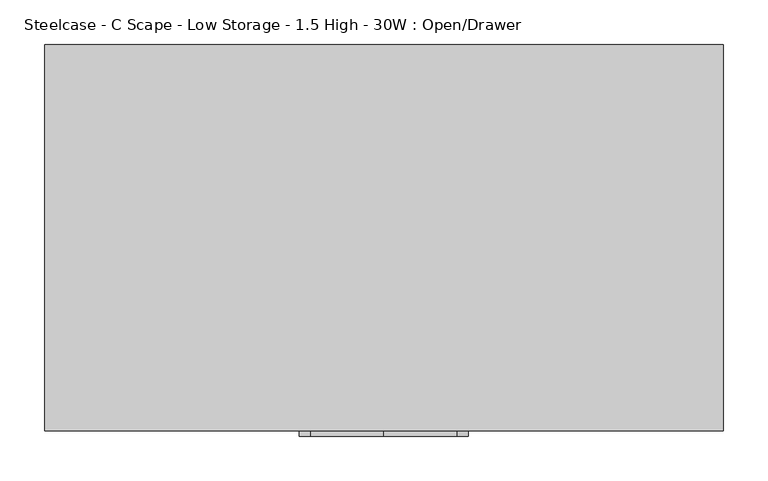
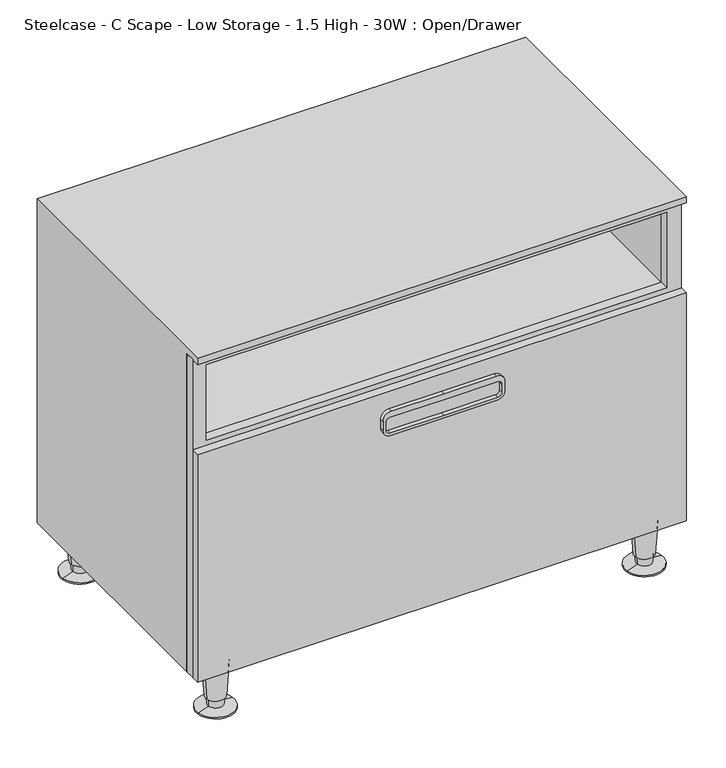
"""IFC4 building model written with IfcOpenShell, lengths in millimetres: furniture geometry, Steelcase - C Scape - Low Storage - 1.5 High - 30W : Open/Drawer."""

from ifc_helpers import new_model, si_unit, point, frame, frame_2d, origin, place, context, project, spatial, polyline, circle_curve, trimmed, segment, composite_curve, outline, extrude, faceted_brep, source, transform, mapped, element, save
from ifc_brep_helpers import plane_surface, cylinder_surface, revolved_surface, advanced_brep


def steelcase_c_scape_low_storage_1_5_high_30w_open_drawer_08e4352a(model_context):
    return source(origin(), model_context, "Body", "SolidModel", [
        extrude(outline(polyline([(599.4499291, 0.0), (76.2, 0.0), (76.2, 760.73), (599.4499291, 760.73), (599.4499291, 320.0585382), (599.4499291, 0.0)]), holes=[polyline([(458.7875121, 21.3382324), (582.9399291, 21.3382324), (582.9399291, 738.7617285), (458.7875121, 738.7617285), (458.7875121, 21.3382324)]), polyline([(436.841904, 21.3256814), (436.841904, 738.7617285), (92.7100024, 738.7617285), (92.7100024, 21.3256814), (436.841904, 21.3256814)])]), frame((0.0, -419.3540543, 0.0), z_axis=(0.0, 1.0, 0.0), x_axis=(0.0, 0.0, 1.0)), (0.0, 0.0, 1.0), 14.9860039),
        extrude(outline(composite_curve([segment(trimmed(circle_curve(frame_2d((409.5749879, 297.8147442)), 12.7), [point((422.2749879, 297.8147442))], [point((409.5749879, 285.1147442))], False, "CARTESIAN"), True, "CONTINUOUS"), segment(polyline([(409.5749879, 285.1147442), (394.970017, 285.1147442)]), True, "CONTINUOUS"), segment(trimmed(circle_curve(frame_2d((394.970017, 297.8147442)), 12.7), [point((394.970017, 285.1147442))], [point((382.270017, 297.8147442))], False, "CARTESIAN"), True, "CONTINUOUS"), segment(polyline([(382.270017, 297.8147442), (382.270017, 380.0475), (382.270017, 462.2802558)]), True, "CONTINUOUS"), segment(trimmed(circle_curve(frame_2d((394.970017, 462.2802558)), 12.7), [point((382.270017, 462.2802558))], [point((394.970017, 474.9802558))], False, "CARTESIAN"), True, "CONTINUOUS"), segment(polyline([(394.970017, 474.9802558), (409.5749879, 474.9802558)]), True, "CONTINUOUS"), segment(trimmed(circle_curve(frame_2d((409.5749879, 462.2802558)), 12.7), [point((409.5749879, 474.9802558))], [point((422.2749879, 462.2802558))], False, "CARTESIAN"), True, "CONTINUOUS"), segment(polyline([(422.2749879, 462.2802558), (422.2749879, 380.0475), (422.2749879, 297.8147442)]), True, "CONTINUOUS")], self_intersect=False), holes=[composite_curve([segment(trimmed(circle_curve(frame_2d((406.1460063, 296.2923565)), 6.35), [point((406.1460063, 289.9423565))], [point((412.4960063, 296.2923565))], True, "CARTESIAN"), True, "CONTINUOUS"), segment(polyline([(412.4960063, 296.2923565), (412.4960063, 380.0475), (412.4960063, 463.8026435)]), True, "CONTINUOUS"), segment(trimmed(circle_curve(frame_2d((406.1460063, 463.8026435)), 6.35), [point((412.4960063, 463.8026435))], [point((406.1460063, 470.1526435))], True, "CARTESIAN"), True, "CONTINUOUS"), segment(polyline([(406.1460063, 470.1526435), (393.4459942, 470.1526435)]), True, "CONTINUOUS"), segment(trimmed(circle_curve(frame_2d((393.4459942, 463.8026435)), 6.35), [point((393.4459942, 470.1526435))], [point((387.0959942, 463.8026435))], True, "CARTESIAN"), True, "CONTINUOUS"), segment(polyline([(387.0959942, 463.8026435), (387.0959942, 380.0475), (387.0959942, 296.2923565)]), True, "CONTINUOUS"), segment(trimmed(circle_curve(frame_2d((393.4459942, 296.2923565)), 6.35), [point((387.0959942, 296.2923565))], [point((393.4459942, 289.9423565))], True, "CARTESIAN"), True, "CONTINUOUS"), segment(polyline([(393.4459942, 289.9423565), (406.1460063, 289.9423565)]), True, "CONTINUOUS")], self_intersect=False)]), frame((0.0, -439.42, 0.0), z_axis=(0.0, 1.0, 0.0), x_axis=(0.0, 0.0, 1.0)), (0.0, 0.0, 1.0), 6.35),
        advanced_brep(
        [(65.5422821, -397.1702762, 76.2), (27.8805432, -402.9325174, 76.2), (46.7114126, -400.0513968, 76.2), (61.5919341, -397.774679, 19.05), (31.8308912, -402.3281146, 19.05), (59.1623471, -398.1464055, 19.05), (34.2604781, -401.9563882, 19.05), (58.4735776, -398.2517871, 5.7545598), (34.9492476, -401.8510065, 5.7545598), (75.8224611, -395.5974102, 2.5119506), (17.6003641, -404.5053834, 2.5119506), (75.8224611, -395.5974102, 0.0), (17.6003641, -404.5053834, 0.0), (46.7114126, -400.0513968, 0.0)],
        [
            (0, 1, circle_curve(frame((46.7114126, -400.0513968, 76.2), z_axis=(0.0, 0.0, 1.0), x_axis=(0.0, -1.0, 0.0)), 19.05)),
            (1, 2),
            (2, 0),
            (1, 0, circle_curve(frame((46.7114126, -400.0513968, 76.2), z_axis=(0.0, 0.0, 1.0), x_axis=(0.0, -1.0, 0.0)), 19.05)),
            (3, 4, circle_curve(frame((46.7114126, -400.0513968, 19.05), z_axis=(0.0, 0.0, 1.0), x_axis=(0.0, -1.0, 0.0)), 15.0536827)),
            (4, 1),
            (0, 3),
            (4, 3, circle_curve(frame((46.7114126, -400.0513968, 19.05), z_axis=(0.0, 0.0, 1.0), x_axis=(0.0, -1.0, 0.0)), 15.0536827)),
            (5, 6, circle_curve(frame((46.7114126, -400.0513968, 19.05), z_axis=(0.0, 0.0, 1.0), x_axis=(0.0, -1.0, 0.0)), 12.5958232)),
            (6, 4),
            (3, 5),
            (6, 5, circle_curve(frame((46.7114126, -400.0513968, 19.05), z_axis=(0.0, 0.0, 1.0), x_axis=(0.0, -1.0, 0.0)), 12.5958232)),
            (7, 8, circle_curve(frame((46.7114126, -400.0513968, 5.7545598), z_axis=(0.0, 0.0, 1.0), x_axis=(0.0, -1.0, 0.0)), 11.8990387)),
            (8, 6),
            (5, 7),
            (8, 7, circle_curve(frame((46.7114126, -400.0513968, 5.7545598), z_axis=(0.0, 0.0, 1.0), x_axis=(0.0, -1.0, 0.0)), 11.8990387)),
            (9, 10, circle_curve(frame((46.7114126, -400.0513968, 2.5119506), z_axis=(0.0, 0.0, 1.0), x_axis=(0.0, -1.0, 0.0)), 29.4498071)),
            (10, 8),
            (7, 9),
            (10, 9, circle_curve(frame((46.7114126, -400.0513968, 2.5119506), z_axis=(0.0, 0.0, 1.0), x_axis=(0.0, -1.0, 0.0)), 29.4498071)),
            (11, 12, circle_curve(frame((46.7114126, -400.0513968, 0.0), z_axis=(0.0, 0.0, 1.0), x_axis=(0.0, -1.0, 0.0)), 29.4498071)),
            (12, 10),
            (9, 11),
            (12, 11, circle_curve(frame((46.7114126, -400.0513968, 0.0), z_axis=(0.0, 0.0, 1.0), x_axis=(0.0, -1.0, 0.0)), 29.4498071)),
            (13, 12),
            (11, 13),
        ],
        [
            plane_surface(frame((46.7114126, -400.0513968, 76.2), z_axis=(0.0, 0.0, 1.0), x_axis=(0.0, -1.0, 0.0))),
            revolved_surface(polyline([(46.7114126, -419.1013968, 76.2), (46.7114126, -415.1050795, 19.05)]), (46.7114126, -400.0513968, 25.4), (0.0, 0.0, -1.0)),
            plane_surface(frame((46.7114126, -400.0513968, 19.05), z_axis=(0.0, 0.0, -1.0), x_axis=(0.0, -1.0, 0.0))),
            revolved_surface(polyline([(46.7114126, -412.64722, 19.05), (46.7114126, -411.9504355, 5.7545598)]), (46.7114126, -400.0513968, 25.4), (0.0, 0.0, -1.0)),
            revolved_surface(polyline([(46.7114126, -411.9504355, 5.7545598), (46.7114126, -429.5012039, 2.5119506)]), (46.7114126, -400.0513968, 25.4), (0.0, 0.0, -1.0)),
            cylinder_surface(frame((46.7114126, -400.0513968, 25.4), z_axis=(0.0, 0.0, -1.0), x_axis=(0.0, -1.0, 0.0)), 29.4498071),
            plane_surface(frame((46.7114126, -400.0513968, 0.0), z_axis=(0.0, 0.0, -1.0), x_axis=(0.0, -1.0, 0.0))),
        ],
        [
            (0, [[1, 2, 3]]),
            (0, [[4, -3, -2]]),
            (1, [[5, 6, -1, 7]]),
            (1, [[8, -7, -4, -6]]),
            (2, [[9, 10, -5, 11]]),
            (2, [[12, -11, -8, -10]]),
            (3, [[13, 14, -9, 15]]),
            (3, [[16, -15, -12, -14]]),
            (4, [[17, 18, -13, 19]]),
            (4, [[20, -19, -16, -18]]),
            (5, [[21, 22, -17, 23]]),
            (5, [[24, -23, -20, -22]]),
            (6, [[25, -21, 26]]),
            (6, [[-26, -24, -25]]),
        ],
    ),
        advanced_brep(
        [(733.4598695, -397.1702762, 76.2), (695.7981305, -402.9325174, 76.2), (714.629, -400.0513968, 76.2), (729.5095214, -397.774679, 19.05), (699.7484786, -402.3281146, 19.05), (727.0799345, -398.1464055, 19.05), (702.1780655, -401.9563882, 19.05), (726.391165, -398.2517871, 5.7545598), (702.866835, -401.8510065, 5.7545598), (743.7400485, -395.5974102, 2.5119506), (685.5179515, -404.5053834, 2.5119506), (743.7400485, -395.5974102, 0.0), (685.5179515, -404.5053834, 0.0), (714.629, -400.0513968, 0.0)],
        [
            (0, 1, circle_curve(frame((714.629, -400.0513968, 76.2), z_axis=(0.0, 0.0, 1.0), x_axis=(0.0, -1.0, 0.0)), 19.05)),
            (1, 2),
            (2, 0),
            (1, 0, circle_curve(frame((714.629, -400.0513968, 76.2), z_axis=(0.0, 0.0, 1.0), x_axis=(0.0, -1.0, 0.0)), 19.05)),
            (3, 4, circle_curve(frame((714.629, -400.0513968, 19.05), z_axis=(0.0, 0.0, 1.0), x_axis=(0.0, -1.0, 0.0)), 15.0536827)),
            (4, 1),
            (0, 3),
            (4, 3, circle_curve(frame((714.629, -400.0513968, 19.05), z_axis=(0.0, 0.0, 1.0), x_axis=(0.0, -1.0, 0.0)), 15.0536827)),
            (5, 6, circle_curve(frame((714.629, -400.0513968, 19.05), z_axis=(0.0, 0.0, 1.0), x_axis=(0.0, -1.0, 0.0)), 12.5958232)),
            (6, 4),
            (3, 5),
            (6, 5, circle_curve(frame((714.629, -400.0513968, 19.05), z_axis=(0.0, 0.0, 1.0), x_axis=(0.0, -1.0, 0.0)), 12.5958232)),
            (7, 8, circle_curve(frame((714.629, -400.0513968, 5.7545598), z_axis=(0.0, 0.0, 1.0), x_axis=(0.0, -1.0, 0.0)), 11.8990387)),
            (8, 6),
            (5, 7),
            (8, 7, circle_curve(frame((714.629, -400.0513968, 5.7545598), z_axis=(0.0, 0.0, 1.0), x_axis=(0.0, -1.0, 0.0)), 11.8990387)),
            (9, 10, circle_curve(frame((714.629, -400.0513968, 2.5119506), z_axis=(0.0, 0.0, 1.0), x_axis=(0.0, -1.0, 0.0)), 29.4498071)),
            (10, 8),
            (7, 9),
            (10, 9, circle_curve(frame((714.629, -400.0513968, 2.5119506), z_axis=(0.0, 0.0, 1.0), x_axis=(0.0, -1.0, 0.0)), 29.4498071)),
            (11, 12, circle_curve(frame((714.629, -400.0513968, 0.0), z_axis=(0.0, 0.0, 1.0), x_axis=(0.0, -1.0, 0.0)), 29.4498071)),
            (12, 10),
            (9, 11),
            (12, 11, circle_curve(frame((714.629, -400.0513968, 0.0), z_axis=(0.0, 0.0, 1.0), x_axis=(0.0, -1.0, 0.0)), 29.4498071)),
            (13, 12),
            (11, 13),
        ],
        [
            plane_surface(frame((714.629, -400.0513968, 76.2), z_axis=(0.0, 0.0, 1.0), x_axis=(0.0, -1.0, 0.0))),
            revolved_surface(polyline([(714.629, -419.1013968, 76.2), (714.629, -415.1050795, 19.05)]), (714.629, -400.0513968, 25.4), (0.0, 0.0, -1.0)),
            plane_surface(frame((714.629, -400.0513968, 19.05), z_axis=(0.0, 0.0, -1.0), x_axis=(0.0, -1.0, 0.0))),
            revolved_surface(polyline([(714.629, -412.64722, 19.05), (714.629, -411.9504355, 5.7545598)]), (714.629, -400.0513968, 25.4), (0.0, 0.0, -1.0)),
            revolved_surface(polyline([(714.629, -411.9504355, 5.7545598), (714.629, -429.5012039, 2.5119506)]), (714.629, -400.0513968, 25.4), (0.0, 0.0, -1.0)),
            cylinder_surface(frame((714.629, -400.0513968, 25.4), z_axis=(0.0, 0.0, -1.0), x_axis=(0.0, -1.0, 0.0)), 29.4498071),
            plane_surface(frame((714.629, -400.0513968, 0.0), z_axis=(0.0, 0.0, -1.0), x_axis=(0.0, -1.0, 0.0))),
        ],
        [
            (0, [[1, 2, 3]]),
            (0, [[4, -3, -2]]),
            (1, [[5, 6, -1, 7]]),
            (1, [[8, -7, -4, -6]]),
            (2, [[9, 10, -5, 11]]),
            (2, [[12, -11, -8, -10]]),
            (3, [[13, 14, -9, 15]]),
            (3, [[16, -15, -12, -14]]),
            (4, [[17, 18, -13, 19]]),
            (4, [[20, -19, -16, -18]]),
            (5, [[21, 22, -17, 23]]),
            (5, [[24, -23, -20, -22]]),
            (6, [[25, -21, 26]]),
            (6, [[-26, -24, -25]]),
        ],
    ),
        advanced_brep(
        [(733.4598695, -31.5218435, 76.2), (695.7981305, -37.2840847, 76.2), (714.629, -34.4029641, 76.2), (729.5095214, -32.1262463, 19.05), (699.7484786, -36.6796819, 19.05), (727.0799345, -32.4979728, 19.05), (702.1780655, -36.3079555, 19.05), (726.391165, -32.6033544, 5.7545598), (702.866835, -36.2025738, 5.7545598), (743.7400485, -29.9489775, 2.5119506), (685.5179515, -38.8569507, 2.5119506), (743.7400485, -29.9489775, 0.0), (685.5179515, -38.8569507, 0.0), (714.629, -34.4029641, 0.0)],
        [
            (0, 1, circle_curve(frame((714.629, -34.4029641, 76.2), z_axis=(0.0, 0.0, 1.0), x_axis=(0.0, -1.0, 0.0)), 19.05)),
            (1, 2),
            (2, 0),
            (1, 0, circle_curve(frame((714.629, -34.4029641, 76.2), z_axis=(0.0, 0.0, 1.0), x_axis=(0.0, -1.0, 0.0)), 19.05)),
            (3, 4, circle_curve(frame((714.629, -34.4029641, 19.05), z_axis=(0.0, 0.0, 1.0), x_axis=(0.0, -1.0, 0.0)), 15.0536827)),
            (4, 1),
            (0, 3),
            (4, 3, circle_curve(frame((714.629, -34.4029641, 19.05), z_axis=(0.0, 0.0, 1.0), x_axis=(0.0, -1.0, 0.0)), 15.0536827)),
            (5, 6, circle_curve(frame((714.629, -34.4029641, 19.05), z_axis=(0.0, 0.0, 1.0), x_axis=(0.0, -1.0, 0.0)), 12.5958232)),
            (6, 4),
            (3, 5),
            (6, 5, circle_curve(frame((714.629, -34.4029641, 19.05), z_axis=(0.0, 0.0, 1.0), x_axis=(0.0, -1.0, 0.0)), 12.5958232)),
            (7, 8, circle_curve(frame((714.629, -34.4029641, 5.7545598), z_axis=(0.0, 0.0, 1.0), x_axis=(0.0, -1.0, 0.0)), 11.8990387)),
            (8, 6),
            (5, 7),
            (8, 7, circle_curve(frame((714.629, -34.4029641, 5.7545598), z_axis=(0.0, 0.0, 1.0), x_axis=(0.0, -1.0, 0.0)), 11.8990387)),
            (9, 10, circle_curve(frame((714.629, -34.4029641, 2.5119506), z_axis=(0.0, 0.0, 1.0), x_axis=(0.0, -1.0, 0.0)), 29.4498071)),
            (10, 8),
            (7, 9),
            (10, 9, circle_curve(frame((714.629, -34.4029641, 2.5119506), z_axis=(0.0, 0.0, 1.0), x_axis=(0.0, -1.0, 0.0)), 29.4498071)),
            (11, 12, circle_curve(frame((714.629, -34.4029641, 0.0), z_axis=(0.0, 0.0, 1.0), x_axis=(0.0, -1.0, 0.0)), 29.4498071)),
            (12, 10),
            (9, 11),
            (12, 11, circle_curve(frame((714.629, -34.4029641, 0.0), z_axis=(0.0, 0.0, 1.0), x_axis=(0.0, -1.0, 0.0)), 29.4498071)),
            (13, 12),
            (11, 13),
        ],
        [
            plane_surface(frame((714.629, -34.4029641, 76.2), z_axis=(0.0, 0.0, 1.0), x_axis=(0.0, -1.0, 0.0))),
            revolved_surface(polyline([(714.629, -53.4529641, 76.2), (714.629, -49.4566468, 19.05)]), (714.629, -34.4029641, 25.4), (0.0, 0.0, -1.0)),
            plane_surface(frame((714.629, -34.4029641, 19.05), z_axis=(0.0, 0.0, -1.0), x_axis=(0.0, -1.0, 0.0))),
            revolved_surface(polyline([(714.629, -46.9987873, 19.05), (714.629, -46.3020028, 5.7545598)]), (714.629, -34.4029641, 25.4), (0.0, 0.0, -1.0)),
            revolved_surface(polyline([(714.629, -46.3020028, 5.7545598), (714.629, -63.8527712, 2.5119506)]), (714.629, -34.4029641, 25.4), (0.0, 0.0, -1.0)),
            cylinder_surface(frame((714.629, -34.4029641, 25.4), z_axis=(0.0, 0.0, -1.0), x_axis=(0.0, -1.0, 0.0)), 29.4498071),
            plane_surface(frame((714.629, -34.4029641, 0.0), z_axis=(0.0, 0.0, -1.0), x_axis=(0.0, -1.0, 0.0))),
        ],
        [
            (0, [[1, 2, 3]]),
            (0, [[4, -3, -2]]),
            (1, [[5, 6, -1, 7]]),
            (1, [[8, -7, -4, -6]]),
            (2, [[9, 10, -5, 11]]),
            (2, [[12, -11, -8, -10]]),
            (3, [[13, 14, -9, 15]]),
            (3, [[16, -15, -12, -14]]),
            (4, [[17, 18, -13, 19]]),
            (4, [[20, -19, -16, -18]]),
            (5, [[21, 22, -17, 23]]),
            (5, [[24, -23, -20, -22]]),
            (6, [[25, -21, 26]]),
            (6, [[-26, -24, -25]]),
        ],
    ),
        advanced_brep(
        [(65.5422821, -31.5218435, 76.2), (27.8805432, -37.2840847, 76.2), (46.7114126, -34.4029641, 76.2), (61.5919341, -32.1262463, 19.05), (31.8308912, -36.6796819, 19.05), (59.1623471, -32.4979728, 19.05), (34.2604781, -36.3079555, 19.05), (58.4735776, -32.6033544, 5.7545598), (34.9492476, -36.2025738, 5.7545598), (75.8224611, -29.9489775, 2.5119506), (17.6003641, -38.8569507, 2.5119506), (75.8224611, -29.9489775, 0.0), (17.6003641, -38.8569507, 0.0), (46.7114126, -34.4029641, 0.0)],
        [
            (0, 1, circle_curve(frame((46.7114126, -34.4029641, 76.2), z_axis=(0.0, 0.0, 1.0), x_axis=(0.0, -1.0, 0.0)), 19.05)),
            (1, 2),
            (2, 0),
            (1, 0, circle_curve(frame((46.7114126, -34.4029641, 76.2), z_axis=(0.0, 0.0, 1.0), x_axis=(0.0, -1.0, 0.0)), 19.05)),
            (3, 4, circle_curve(frame((46.7114126, -34.4029641, 19.05), z_axis=(0.0, 0.0, 1.0), x_axis=(0.0, -1.0, 0.0)), 15.0536827)),
            (4, 1),
            (0, 3),
            (4, 3, circle_curve(frame((46.7114126, -34.4029641, 19.05), z_axis=(0.0, 0.0, 1.0), x_axis=(0.0, -1.0, 0.0)), 15.0536827)),
            (5, 6, circle_curve(frame((46.7114126, -34.4029641, 19.05), z_axis=(0.0, 0.0, 1.0), x_axis=(0.0, -1.0, 0.0)), 12.5958232)),
            (6, 4),
            (3, 5),
            (6, 5, circle_curve(frame((46.7114126, -34.4029641, 19.05), z_axis=(0.0, 0.0, 1.0), x_axis=(0.0, -1.0, 0.0)), 12.5958232)),
            (7, 8, circle_curve(frame((46.7114126, -34.4029641, 5.7545598), z_axis=(0.0, 0.0, 1.0), x_axis=(0.0, -1.0, 0.0)), 11.8990387)),
            (8, 6),
            (5, 7),
            (8, 7, circle_curve(frame((46.7114126, -34.4029641, 5.7545598), z_axis=(0.0, 0.0, 1.0), x_axis=(0.0, -1.0, 0.0)), 11.8990387)),
            (9, 10, circle_curve(frame((46.7114126, -34.4029641, 2.5119506), z_axis=(0.0, 0.0, 1.0), x_axis=(0.0, -1.0, 0.0)), 29.4498071)),
            (10, 8),
            (7, 9),
            (10, 9, circle_curve(frame((46.7114126, -34.4029641, 2.5119506), z_axis=(0.0, 0.0, 1.0), x_axis=(0.0, -1.0, 0.0)), 29.4498071)),
            (11, 12, circle_curve(frame((46.7114126, -34.4029641, 0.0), z_axis=(0.0, 0.0, 1.0), x_axis=(0.0, -1.0, 0.0)), 29.4498071)),
            (12, 10),
            (9, 11),
            (12, 11, circle_curve(frame((46.7114126, -34.4029641, 0.0), z_axis=(0.0, 0.0, 1.0), x_axis=(0.0, -1.0, 0.0)), 29.4498071)),
            (13, 12),
            (11, 13),
        ],
        [
            plane_surface(frame((46.7114126, -34.4029641, 76.2), z_axis=(0.0, 0.0, 1.0), x_axis=(0.0, -1.0, 0.0))),
            revolved_surface(polyline([(46.7114126, -53.4529641, 76.2), (46.7114126, -49.4566468, 19.05)]), (46.7114126, -34.4029641, 25.4), (0.0, 0.0, -1.0)),
            plane_surface(frame((46.7114126, -34.4029641, 19.05), z_axis=(0.0, 0.0, -1.0), x_axis=(0.0, -1.0, 0.0))),
            revolved_surface(polyline([(46.7114126, -46.9987873, 19.05), (46.7114126, -46.3020028, 5.7545598)]), (46.7114126, -34.4029641, 25.4), (0.0, 0.0, -1.0)),
            revolved_surface(polyline([(46.7114126, -46.3020028, 5.7545598), (46.7114126, -63.8527712, 2.5119506)]), (46.7114126, -34.4029641, 25.4), (0.0, 0.0, -1.0)),
            cylinder_surface(frame((46.7114126, -34.4029641, 25.4), z_axis=(0.0, 0.0, -1.0), x_axis=(0.0, -1.0, 0.0)), 29.4498071),
            plane_surface(frame((46.7114126, -34.4029641, 0.0), z_axis=(0.0, 0.0, -1.0), x_axis=(0.0, -1.0, 0.0))),
        ],
        [
            (0, [[1, 2, 3]]),
            (0, [[4, -3, -2]]),
            (1, [[5, 6, -1, 7]]),
            (1, [[8, -7, -4, -6]]),
            (2, [[9, 10, -5, 11]]),
            (2, [[12, -11, -8, -10]]),
            (3, [[13, 14, -9, 15]]),
            (3, [[16, -15, -12, -14]]),
            (4, [[17, 18, -13, 19]]),
            (4, [[20, -19, -16, -18]]),
            (5, [[21, 22, -17, 23]]),
            (5, [[24, -23, -20, -22]]),
            (6, [[25, -21, 26]]),
            (6, [[-26, -24, -25]]),
        ],
    ),
        faceted_brep([(0.0, 0.0, 609.6), (760.73, 0.0, 609.6), (760.73, 0.0, 76.2), (0.0, 0.0, 76.2), (0.0, -433.07, 609.6), (0.0, -404.3680504, 76.2), (0.0, -404.3680504, 599.4499291), (0.0, -433.07, 599.4499291), (21.3382324, -404.3680504, 599.4499291), (760.73, -404.3680504, 76.2), (760.73, -404.3680504, 599.4499291), (738.7617285, -404.3680504, 599.4499291), (738.7617285, -404.3680504, 458.7875121), (21.3382324, -404.3680504, 458.7875121), (738.7617285, -404.3680504, 450.8499879), (738.7617285, -404.3680504, 92.7100024), (21.3382324, -404.3680504, 92.7100024), (21.3382324, -404.3680504, 450.8499879), (21.3382324, -9.525, 599.4499291), (21.3382324, -9.525, 458.7875121), (21.3382324, -9.525, 92.7100024), (21.3382324, -9.525, 450.8499879), (738.7617285, -9.525, 599.4499291), (738.7617285, -9.525, 458.7875121), (738.7617285, -9.525, 92.7100024), (738.7617285, -9.525, 450.8499879), (760.73, -433.07, 609.6), (760.73, -433.07, 599.4499291)], [[[0, 1, 2, 3]], [[4, 0, 3, 5, 6, 7]], [[8, 6, 5, 9, 10, 11, 12, 13], [14, 15, 16, 17]], [[18, 8, 13, 19]], [[17, 16, 20, 21]], [[22, 18, 19, 23]], [[21, 20, 24, 25]], [[11, 22, 23, 12]], [[25, 24, 15, 14]], [[2, 1, 26, 27, 10, 9]], [[1, 0, 4, 26]], [[27, 7, 6, 8, 18, 22, 11, 10]], [[26, 4, 7, 27]], [[13, 12, 23, 19]], [[14, 17, 21, 25]], [[16, 15, 24, 20]], [[2, 9, 5, 3]]]),
        extrude(outline(polyline([(760.73, -419.3540543), (760.73, -433.07), (0.0, -433.07), (0.0, -419.3540543), (760.73, -419.3540543)])), frame((0.0, 0.0, 76.2), z_axis=(0.0, 0.0, 1.0), x_axis=(1.0, 0.0, 0.0)), (0.0, 0.0, 1.0), 374.6499879),
    ])


if __name__ == "__main__":
    model = new_model("IFC4")
    model_context = context("Model", 3, world=origin())
    ifc_project = project(units=[si_unit("LENGTHUNIT", "METRE", prefix="MILLI")], contexts=[model_context])
    site = spatial("IfcSite", under=ifc_project)
    building = spatial("IfcBuilding", under=site)
    placement = place(None, origin())
    steelcase_c_scape_low_storage_1_5_high_30w_open_drawer_shape = steelcase_c_scape_low_storage_1_5_high_30w_open_drawer_08e4352a(model_context)
    element("IfcFurniture", 1, ObjectType="Steelcase - C Scape - Low Storage - 1.5 High - 30W : Open/Drawer", at=placement, inside=building, context=model_context, shape_type="MappedRepresentation", body=[
        mapped(steelcase_c_scape_low_storage_1_5_high_30w_open_drawer_shape, transform((0.0, 0.0, 0.0), x_axis=(1.0, 0.0, 0.0), y_axis=(0.0, 1.0, 0.0), z_axis=(0.0, 0.0, 1.0))),
    ])
    save(model, "model.ifc")
